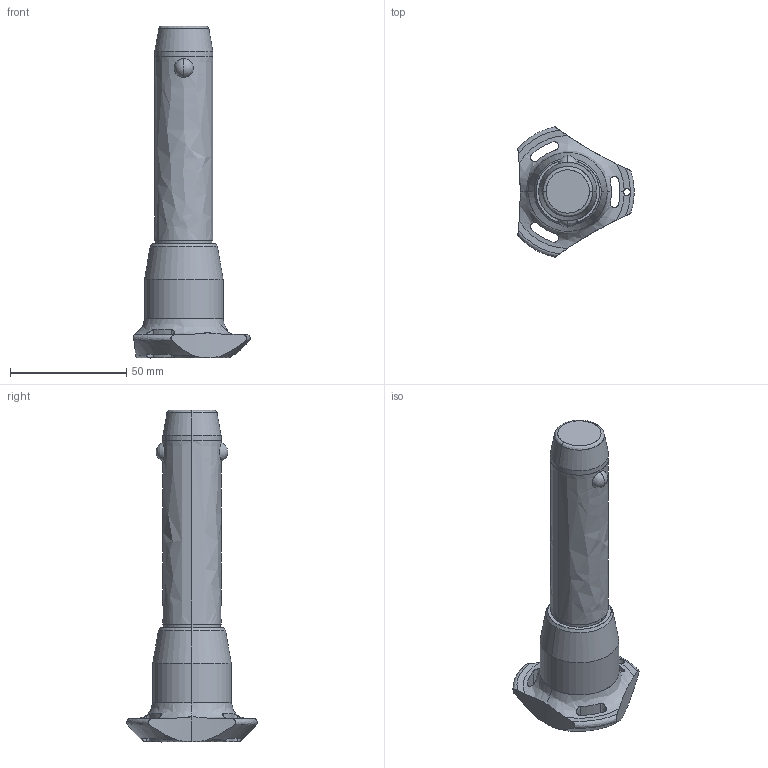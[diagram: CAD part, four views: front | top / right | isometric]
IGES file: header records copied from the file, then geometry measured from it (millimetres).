
Start section: SolidWorks IGES file using analytic representation for surfaces
Global section: file name: C:\Users\ianosborn\Desktop\QR1736_v2\QR1736_v2_20251115_IGES\QR1736.M25-070-T.igs; native system: SolidWorks 2019; preprocessor: SolidWorks 2019; author: IanOsborn; date: 251113.121541; units: millimetre
Bounding box: 50.04 x 56.02 x 142.7 mm (x, y, z)
Surface area: 16947.6 mm2 (no closed solid volume)
Topology: 0 solids, 0 shells, 68 faces, 1382 edges, 1378 vertices
Faces by surface type: revolution 52, bspline 16
